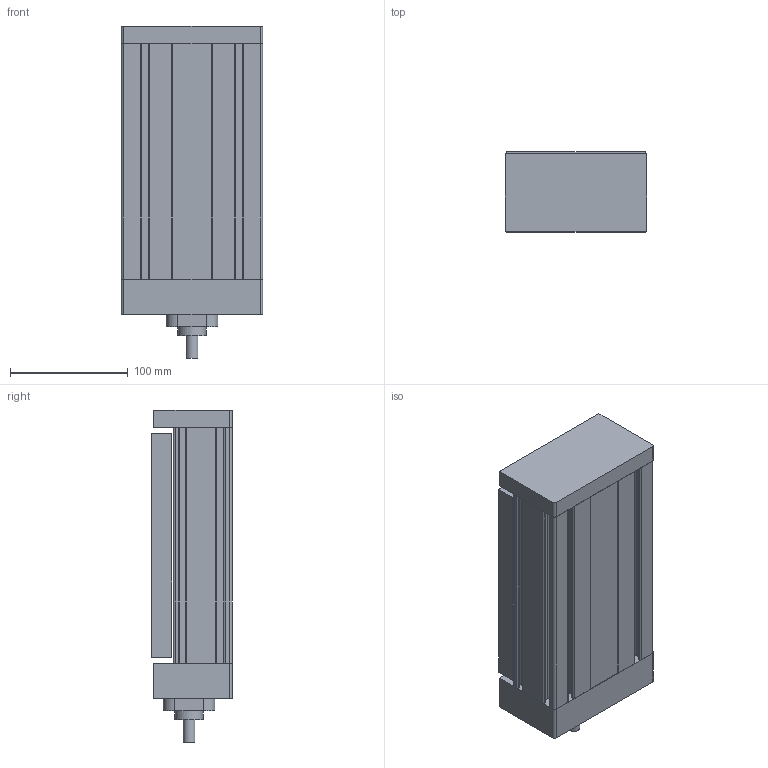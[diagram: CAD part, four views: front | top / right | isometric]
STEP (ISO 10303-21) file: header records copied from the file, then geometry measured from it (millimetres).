
FILE_DESCRIPTION((''),'2;1');
FILE_NAME('C:\Users\disegnatore3\Desktop\alberto_3d\MODELLI PER SITO WEB\ASSI\ML120\ML120PROV-24\FORMATO CAD\ML120PROV-24.stp','2016-09-12T13:13:06',('disegnatore3'),(''),'Autodesk Inventor 2012','Autodesk Inventor 2012','');
FILE_SCHEMA(('AUTOMOTIVE_DESIGN { 1 0 10303 214 1 1 1 1 }'));
Length unit declared in the file: millimetre
Products named in the file (5): ML120PROV-24; PR120PRO; CR120PRO-24; TM120PROV; TR120PROV
Assembly tree (4 placements, depth 2):
  ML120PROV-24
    PR120PRO
    CR120PRO-24
    TM120PROV
    TR120PROV
Bounding box: 120 x 68 x 282 mm (x, y, z)
Volume: 1859456.5 mm3; surface area: 219248.2 mm2
Topology: 4 solids, 4 shells, 161 faces, 450 edges, 300 vertices
Faces by surface type: plane 83, cylinder 70, cone 8
Full cylindrical faces by diameter (mm): 3.242 x4, 4.134 x12, 10 x1, 24 x1
Entity records: 5121 total; most frequent: DIRECTION 888, CARTESIAN_POINT 862, ORIENTED_EDGE 816, EDGE_CURVE 408, AXIS2_PLACEMENT_3D 310, VERTEX_POINT 284, VECTOR 268, LINE 268
